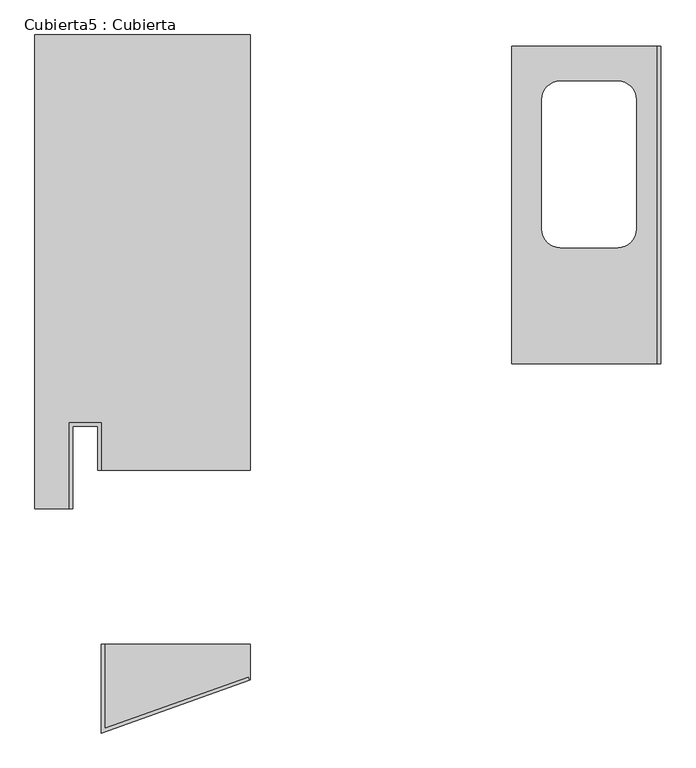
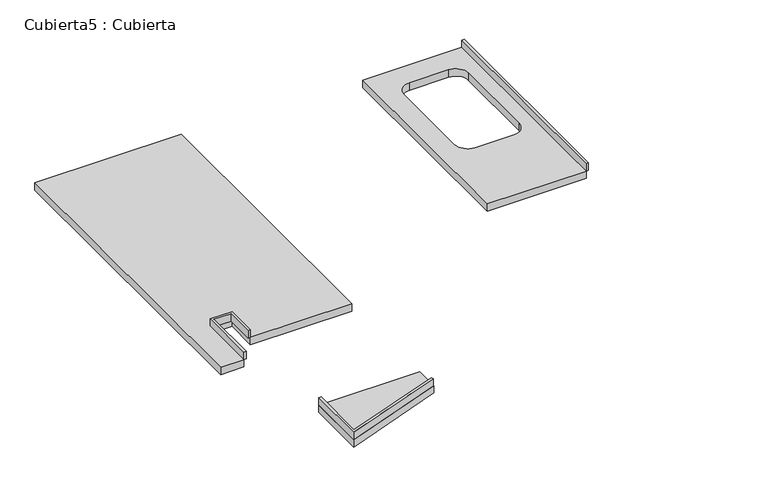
"""IFC4 building model written with IfcOpenShell, lengths in millimetres: furniture geometry, Cubierta5 : Cubierta."""

from ifc_helpers import new_model, si_unit, frame, origin, place, context, project, spatial, polyline, circle_curve, outline, extrude, faceted_brep, source, transform, mapped, element, save
from ifc_brep_helpers import plane_surface, revolved_surface, advanced_brep


def cubierta5_cubierta_24cb3831(model_context):
    return source(origin(), model_context, "Body", "SolidModel", [
        extrude(outline(polyline([(49584.5059119, 27145.7129416), (49599.5059119, 27145.7129416), (49599.5059119, 26779.1989241), (50225.3734137, 27002.2290366), (50230.4085675, 26988.0993789), (49584.5059119, 26757.929668), (49584.5059119, 27145.7129416)])), frame((0.0, 0.0, 3900.0), z_axis=(0.0, 0.0, 1.0), x_axis=(1.0, 0.0, 0.0)), (0.0, 0.0, 1.0), 50.0),
        extrude(outline(polyline([(49584.5059119, 27905.7129416), (49569.5059119, 27905.7129416), (49569.5059119, 28096.0432167), (49459.5059119, 28096.0432167), (49459.5059119, 27737.2326537), (49444.5059119, 27737.2326537), (49444.5059119, 28111.0432167), (49584.5059119, 28111.0432167), (49584.5059119, 27905.7129416)])), frame((0.0, 0.0, 3900.0), z_axis=(0.0, 0.0, 1.0), x_axis=(1.0, 0.0, 0.0)), (0.0, 0.0, 1.0), 50.0),
        faceted_brep([(49294.5059119, 29804.010184, 3900.0), (49294.5059119, 27737.2326537, 3900.0), (49444.5059119, 27737.2326537, 3900.0), (49444.5059119, 28111.0432167, 3900.0), (49584.5059119, 28111.0432167, 3900.0), (49584.5059119, 27905.7129416, 3900.0), (50234.5059119, 27905.7129416, 3900.0), (50234.5059119, 29804.010184, 3900.0), (49294.5059119, 29804.010184, 3850.0), (50234.5059119, 29804.010184, 3850.0), (50234.5059119, 27905.7129416, 3850.0), (49584.5059119, 27905.7129416, 3850.0), (49584.5059119, 28111.0432167, 3850.0), (49444.5059119, 28111.0432167, 3850.0), (49444.5059119, 27737.2326537, 3850.0), (49294.5059119, 27737.2326537, 3850.0)], [[[0, 1, 2, 3, 4, 5, 6, 7]], [[8, 9, 10, 11, 12, 13, 14, 15]], [[1, 0, 8, 15]], [[7, 6, 10, 9]], [[0, 7, 9, 8]], [[2, 1, 15, 14]], [[3, 2, 14, 13]], [[4, 3, 13, 12]], [[5, 4, 12, 11]], [[6, 5, 11, 10]]]),
        advanced_brep(
        [(52009.4822189, 29754.010184, 3900.0), (51374.4822189, 29754.010184, 3900.0), (51374.4822189, 28368.8532187, 3900.0), (52009.4822189, 28368.8532187, 3900.0), (51586.9822189, 29602.8532187, 3900.0), (51836.9822189, 29602.8532187, 3900.0), (51917.9822189, 29521.8532187, 3900.0), (51917.9822189, 28956.8532187, 3900.0), (51836.9822189, 28875.8532187, 3900.0), (51586.9822189, 28875.8532187, 3900.0), (51505.9822189, 28956.8532187, 3900.0), (51505.9822189, 29521.8532187, 3900.0), (52009.4822189, 29754.010184, 3850.0), (52009.4822189, 28368.8532187, 3850.0), (51374.4822189, 28368.8532187, 3850.0), (51374.4822189, 29754.010184, 3850.0), (51586.9822189, 29602.8532187, 3850.0), (51505.9822189, 29521.8532187, 3850.0), (51505.9822189, 28956.8532187, 3850.0), (51586.9822189, 28875.8532187, 3850.0), (51836.9822189, 28875.8532187, 3850.0), (51917.9822189, 28956.8532187, 3850.0), (51917.9822189, 29521.8532187, 3850.0), (51836.9822189, 29602.8532187, 3850.0), (52009.4822189, 29754.010184, 3950.0), (52024.4822189, 29754.010184, 3950.0), (52024.4822189, 29754.010184, 3900.0), (52009.4822189, 28368.8532187, 3950.0), (52024.4822189, 28368.8532187, 3950.0), (52024.4822189, 28368.8532187, 3900.0)],
        [
            (0, 1),
            (1, 2),
            (2, 3),
            (3, 0),
            (4, 5),
            (5, 6, circle_curve(frame((51836.9822189, 29521.8532187, 3900.0), z_axis=(0.0, 0.0, -1.0), x_axis=(0.0, -1.0, 0.0)), 81.0)),
            (6, 7),
            (7, 8, circle_curve(frame((51836.9822189, 28956.8532187, 3900.0), z_axis=(0.0, 0.0, -1.0), x_axis=(0.0, -1.0, 0.0)), 81.0)),
            (8, 9),
            (9, 10, circle_curve(frame((51586.9822189, 28956.8532187, 3900.0), z_axis=(0.0, 0.0, -1.0), x_axis=(0.0, -1.0, 0.0)), 81.0)),
            (10, 11),
            (11, 4, circle_curve(frame((51586.9822189, 29521.8532187, 3900.0), z_axis=(0.0, 0.0, -1.0), x_axis=(0.0, -1.0, 0.0)), 81.0)),
            (12, 13),
            (13, 14),
            (14, 15),
            (15, 12),
            (16, 17, circle_curve(frame((51586.9822189, 29521.8532187, 3850.0), z_axis=(0.0, 0.0, 1.0), x_axis=(0.0, -1.0, 0.0)), 81.0)),
            (17, 18),
            (18, 19, circle_curve(frame((51586.9822189, 28956.8532187, 3850.0), z_axis=(0.0, 0.0, 1.0), x_axis=(0.0, -1.0, 0.0)), 81.0)),
            (19, 20),
            (20, 21, circle_curve(frame((51836.9822189, 28956.8532187, 3850.0), z_axis=(0.0, 0.0, 1.0), x_axis=(0.0, -1.0, 0.0)), 81.0)),
            (21, 22),
            (22, 23, circle_curve(frame((51836.9822189, 29521.8532187, 3850.0), z_axis=(0.0, 0.0, 1.0), x_axis=(0.0, -1.0, 0.0)), 81.0)),
            (23, 16),
            (24, 25),
            (25, 26),
            (26, 0),
            (0, 24),
            (24, 27),
            (27, 28),
            (28, 25),
            (28, 29),
            (29, 26),
            (29, 3),
            (3, 0),
            (3, 27),
            (0, 12),
            (15, 1),
            (14, 2),
            (13, 3),
            (4, 16),
            (23, 5),
            (22, 6),
            (21, 7),
            (20, 8),
            (19, 9),
            (18, 10),
            (17, 11),
        ],
        [
            plane_surface(frame((49294.5059119, 28752.7644803, 3900.0), z_axis=(0.0, 0.0, 1.0), x_axis=(0.0, -1.0, 0.0))),
            plane_surface(frame((49294.5059119, 28752.7644803, 3850.0), z_axis=(0.0, 0.0, -1.0), x_axis=(0.0, 1.0, 0.0))),
            plane_surface(frame((52009.4822189, 29754.010184, 3000.0), z_axis=(0.0, 1.0, 0.0), x_axis=(0.0, 0.0, 1.0))),
            plane_surface(frame((52009.4822189, 29754.010184, 3950.0), z_axis=(0.0, 0.0, 1.0), x_axis=(0.0, -1.0, 0.0))),
            plane_surface(frame((52024.4822189, 29754.010184, 3950.0), z_axis=(1.0, 0.0, 0.0), x_axis=(0.0, -1.0, 0.0))),
            plane_surface(frame((52024.4822189, 29754.010184, 3900.0), z_axis=(0.0, 0.0, -1.0), x_axis=(0.0, -1.0, 0.0))),
            plane_surface(frame((52009.4822189, 29754.010184, 3900.0), z_axis=(-1.0, 0.0, 0.0), x_axis=(0.0, -1.0, 0.0))),
            plane_surface(frame((52009.4822189, 28368.8532187, 3000.0), z_axis=(0.0, -1.0, 0.0), x_axis=(0.0, 0.0, 1.0))),
            plane_surface(frame((52009.4822189, 29754.010184, 3900.0), z_axis=(0.0, 1.0, 0.0), x_axis=(0.0, 0.0, -1.0))),
            plane_surface(frame((51374.4822189, 29754.010184, 3900.0), z_axis=(-1.0, 0.0, 0.0), x_axis=(0.0, 0.0, -1.0))),
            plane_surface(frame((51374.4822189, 28368.8532187, 3900.0), z_axis=(0.0, -1.0, 0.0), x_axis=(0.0, 0.0, -1.0))),
            plane_surface(frame((52009.4822189, 28368.8532187, 3900.0), z_axis=(1.0, 0.0, 0.0), x_axis=(0.0, 0.0, -1.0))),
            plane_surface(frame((51586.9822189, 29602.8532187, 3900.0), z_axis=(0.0, -1.0, 0.0), x_axis=(0.0, 0.0, -1.0))),
            revolved_surface(polyline([(51836.9822189, 29440.8532187, 3850.0), (51836.9822189, 29440.8532187, 3900.0)]), (51836.9822189, 29521.8532187, 3000.0), (0.0, 0.0, -1.0)),
            plane_surface(frame((51917.9822189, 29521.8532187, 3900.0), z_axis=(-1.0, 0.0, 0.0), x_axis=(0.0, 0.0, -1.0))),
            revolved_surface(polyline([(51836.9822189, 28875.8532187, 3850.0), (51836.9822189, 28875.8532187, 3900.0)]), (51836.9822189, 28956.8532187, 3000.0), (0.0, 0.0, -1.0)),
            plane_surface(frame((51836.9822189, 28875.8532187, 3900.0), z_axis=(0.0, 1.0, 0.0), x_axis=(0.0, 0.0, -1.0))),
            revolved_surface(polyline([(51586.9822189, 28875.8532187, 3850.0), (51586.9822189, 28875.8532187, 3900.0)]), (51586.9822189, 28956.8532187, 3000.0), (0.0, 0.0, -1.0)),
            plane_surface(frame((51505.9822189, 28956.8532187, 3900.0), z_axis=(1.0, 0.0, 0.0), x_axis=(0.0, 0.0, -1.0))),
            revolved_surface(polyline([(51586.9822189, 29440.8532187, 3850.0), (51586.9822189, 29440.8532187, 3900.0)]), (51586.9822189, 29521.8532187, 3000.0), (0.0, 0.0, -1.0)),
        ],
        [
            (0, [[1, 2, 3, 4], [5, 6, 7, 8, 9, 10, 11, 12]]),
            (1, [[13, 14, 15, 16], [17, 18, 19, 20, 21, 22, 23, 24]]),
            (2, [[25, 26, 27, 28]]),
            (3, [[-25, 29, 30, 31]]),
            (4, [[-26, -31, 32, 33]]),
            (5, [[-27, -33, 34, 35]]),
            (6, [[-28, -4, 36, -29]]),
            (7, [[-30, -36, -34, -32]]),
            (8, [[-1, 37, -16, 38]]),
            (9, [[-2, -38, -15, 39]]),
            (10, [[-3, -39, -14, 40]]),
            (11, [[-13, -37, -35, -40]]),
            (12, [[-5, 41, -24, 42]]),
            (13, [[-6, -42, -23, 43]]),
            (14, [[-7, -43, -22, 44]]),
            (15, [[-8, -44, -21, 45]]),
            (16, [[-9, -45, -20, 46]]),
            (17, [[-10, -46, -19, 47]]),
            (18, [[-11, -47, -18, 48]]),
            (19, [[-12, -48, -17, -41]]),
        ],
    ),
        faceted_brep([(50234.5059119, 26989.5594822, 3900.0), (50234.5059119, 27145.7129416, 3900.0), (49584.5059119, 27145.7129416, 3900.0), (49584.5059119, 26757.929668, 3900.0), (50234.5059119, 26989.5594822, 3850.0), (49584.5059119, 26757.929668, 3850.0), (49584.5059119, 27145.7129416, 3850.0), (50234.5059119, 27145.7129416, 3850.0)], [[[0, 1, 2, 3]], [[4, 5, 6, 7]], [[0, 3, 5, 4]], [[1, 0, 4, 7]], [[2, 1, 7, 6]], [[3, 2, 6, 5]]]),
    ])


if __name__ == "__main__":
    model = new_model("IFC4")
    model_context = context("Model", 3, world=origin())
    ifc_project = project(units=[si_unit("LENGTHUNIT", "METRE", prefix="MILLI")], contexts=[model_context])
    site = spatial("IfcSite", under=ifc_project)
    building = spatial("IfcBuilding", under=site)
    placement = place(None, origin())
    cubierta5_cubierta_shape = cubierta5_cubierta_24cb3831(model_context)
    element("IfcFurniture", 1, ObjectType="Cubierta5 : Cubierta", at=placement, inside=building, context=model_context, shape_type="MappedRepresentation", body=[
        mapped(cubierta5_cubierta_shape, transform((0.0, 0.0, 0.0), x_axis=(1.0, 0.0, 0.0), y_axis=(0.0, 1.0, 0.0), z_axis=(0.0, 0.0, 1.0))),
    ])
    save(model, "model.ifc")
